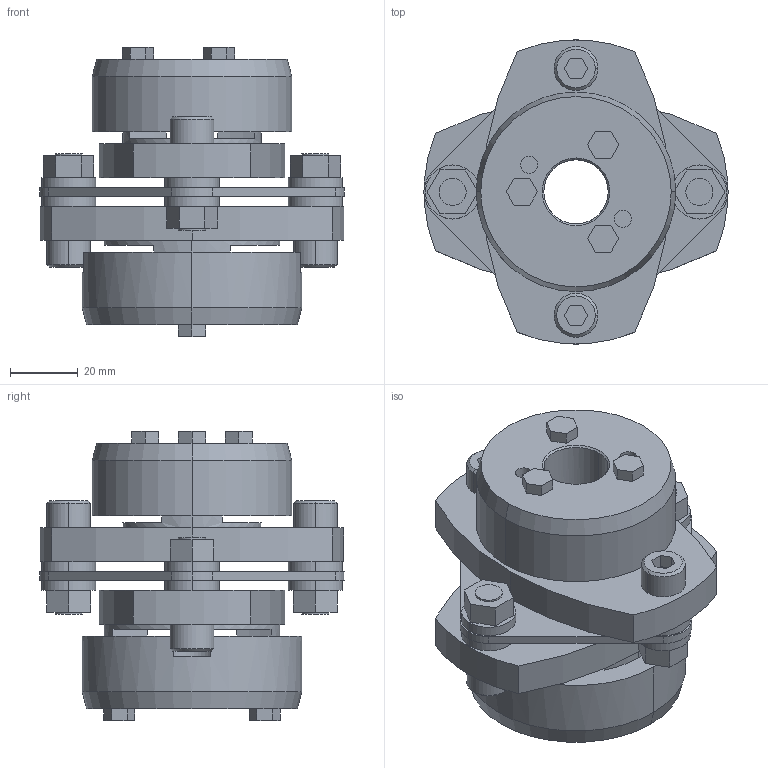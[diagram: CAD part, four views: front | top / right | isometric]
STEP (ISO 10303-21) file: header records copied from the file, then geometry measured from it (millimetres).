
FILE_DESCRIPTION((''),'2;1');
FILE_NAME('LCS-90T7-19×30.stp','2011-09-09T09:59:47',(''),(''),'AutoCAD STEP 2000i','AutoCAD 2000i',', , ');
FILE_SCHEMA(('CONFIG_CONTROL_DESIGN'));
Length unit declared in the file: millimetre
Products named in the file (9): LCS-90T7-19×30; 忣兜1; LC90T7-T030; LC90T7-T025; LC90T7-T019-1; LC90T7-T019; LC90-B019-1; LC90-B019; LCS90-ITA
Assembly tree (8 placements, depth 2):
  LCS-90T7-19×30
    忣兜1
    LC90T7-T030
    LC90T7-T025
    LC90T7-T019-1
    LC90T7-T019
    LC90-B019-1
    LC90-B019
    LCS90-ITA
Bounding box: 90 x 89.94 x 85.5 mm (x, y, z)
Volume: 208032.7 mm3; surface area: 53329.9 mm2
Topology: 1 solids, 1 shells, 229 faces, 562 edges, 368 vertices
Faces by surface type: plane 127, cylinder 82, cone 20
Entity records: 7023 total; most frequent: DIRECTION 1242, CARTESIAN_POINT 1168, ORIENTED_EDGE 1124, EDGE_CURVE 562, AXIS2_PLACEMENT_3D 442, VERTEX_POINT 368, VECTOR 358, LINE 358
